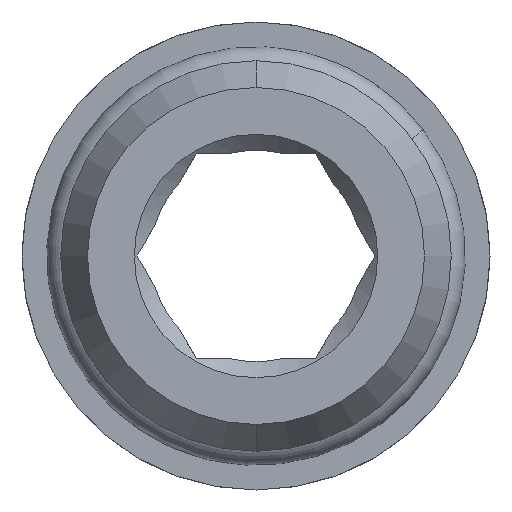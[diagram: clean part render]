
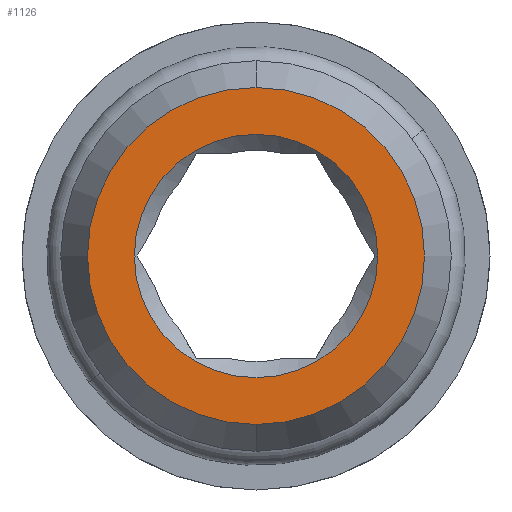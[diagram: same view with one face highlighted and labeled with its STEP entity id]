
A CAD part, front view. The second image highlights one B-rep face of the part: STEP entity #1126.
In plain terms, the highlighted planar face has unit normal (0, -1, 0).
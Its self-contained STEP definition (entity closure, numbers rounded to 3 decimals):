
#99 = CARTESIAN_POINT ( 'NONE',  ( 0., 0., 0. ) ) ;
#111 = DIRECTION ( 'NONE',  ( 0., 0., -1. ) ) ;
#171 = AXIS2_PLACEMENT_3D ( 'NONE', #99, #3792, #3125 ) ;
#378 = EDGE_CURVE ( 'NONE', #431, #1680, #1988, .T. ) ;
#393 = ORIENTED_EDGE ( 'NONE', *, *, #378, .F. ) ;
#431 = VERTEX_POINT ( 'NONE', #2913 ) ;
#680 = CIRCLE ( 'NONE', #2323, 9. ) ;
#708 = DIRECTION ( 'NONE',  ( 0., -1., 0. ) ) ;
#805 = DIRECTION ( 'NONE',  ( 0., -1., 0. ) ) ;
#1016 = FACE_OUTER_BOUND ( 'NONE', #1612, .T. ) ;
#1025 = EDGE_LOOP ( 'NONE', ( #393, #1183 ) ) ;
#1126 = ADVANCED_FACE ( 'NONE', ( #2262, #1016 ), #1295, .T. ) ;
#1183 = ORIENTED_EDGE ( 'NONE', *, *, #3698, .F. ) ;
#1295 = PLANE ( 'NONE',  #2027 ) ;
#1405 = CARTESIAN_POINT ( 'NONE',  ( 0., 0., 0. ) ) ;
#1491 = EDGE_CURVE ( 'NONE', #1669, #2476, #3149, .T. ) ;
#1583 = CARTESIAN_POINT ( 'NONE',  ( 0., 0., 0. ) ) ;
#1585 = CARTESIAN_POINT ( 'NONE',  ( 0., 0., 0. ) ) ;
#1612 = EDGE_LOOP ( 'NONE', ( #3514, #3384 ) ) ;
#1669 = VERTEX_POINT ( 'NONE', #3026 ) ;
#1680 = VERTEX_POINT ( 'NONE', #2414 ) ;
#1726 = CARTESIAN_POINT ( 'NONE',  ( 0., 0., 0. ) ) ;
#1988 = CIRCLE ( 'NONE', #3318, 6.5 ) ;
#2018 = DIRECTION ( 'NONE',  ( 0., -1., 0. ) ) ;
#2027 = AXIS2_PLACEMENT_3D ( 'NONE', #1585, #2175, #3407 ) ;
#2175 = DIRECTION ( 'NONE',  ( 0., -1., 0. ) ) ;
#2262 = FACE_BOUND ( 'NONE', #1025, .T. ) ;
#2323 = AXIS2_PLACEMENT_3D ( 'NONE', #1726, #2018, #3239 ) ;
#2414 = CARTESIAN_POINT ( 'NONE',  ( -6.5, 0., 0. ) ) ;
#2476 = VERTEX_POINT ( 'NONE', #2525 ) ;
#2525 = CARTESIAN_POINT ( 'NONE',  ( 0., 0., 9. ) ) ;
#2913 = CARTESIAN_POINT ( 'NONE',  ( 6.5, 0., 0. ) ) ;
#3026 = CARTESIAN_POINT ( 'NONE',  ( 0., 0., -9. ) ) ;
#3125 = DIRECTION ( 'NONE',  ( 1., 0., 0. ) ) ;
#3149 = CIRCLE ( 'NONE', #3655, 9. ) ;
#3239 = DIRECTION ( 'NONE',  ( 0., 0., -1. ) ) ;
#3318 = AXIS2_PLACEMENT_3D ( 'NONE', #1405, #805, #3498 ) ;
#3384 = ORIENTED_EDGE ( 'NONE', *, *, #1491, .T. ) ;
#3407 = DIRECTION ( 'NONE',  ( 0., 0., -1. ) ) ;
#3498 = DIRECTION ( 'NONE',  ( 1., 0., 0. ) ) ;
#3514 = ORIENTED_EDGE ( 'NONE', *, *, #3758, .T. ) ;
#3655 = AXIS2_PLACEMENT_3D ( 'NONE', #1583, #708, #111 ) ;
#3698 = EDGE_CURVE ( 'NONE', #1680, #431, #3911, .T. ) ;
#3758 = EDGE_CURVE ( 'NONE', #2476, #1669, #680, .T. ) ;
#3792 = DIRECTION ( 'NONE',  ( 0., -1., 0. ) ) ;
#3911 = CIRCLE ( 'NONE', #171, 6.5 ) ;
